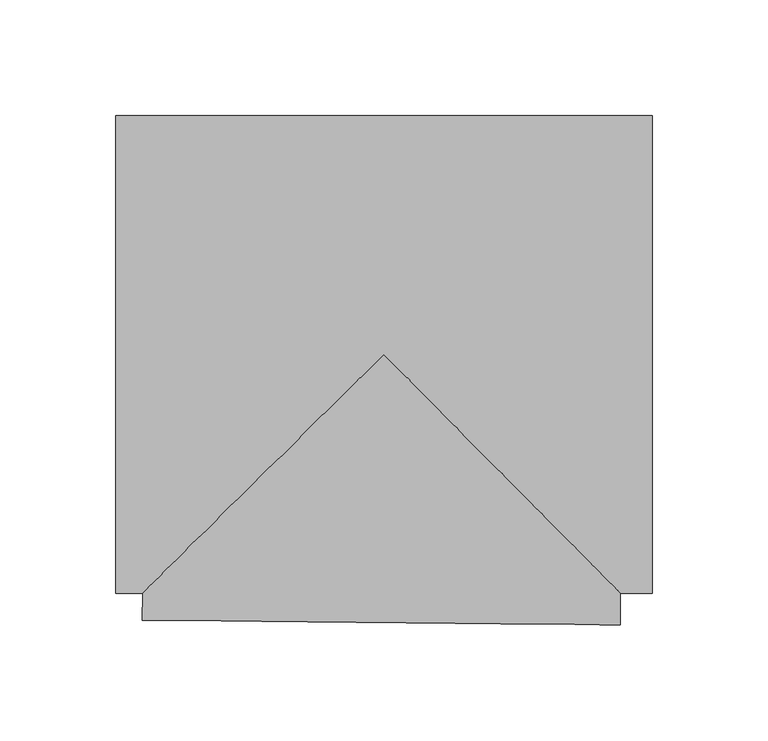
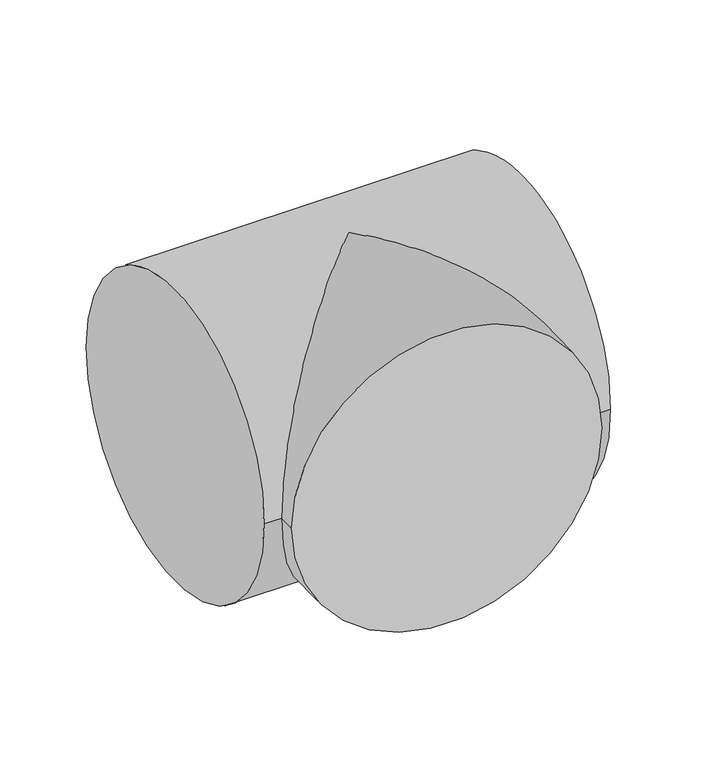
"""IFC4 building model written with IfcOpenShell, lengths in millimetres: pipe fitting geometry, M_Te - Genérica : Estándar."""

from ifc_helpers import new_model, si_unit, frame, origin, place, context, project, spatial, circle_curve, ellipse_curve, source, transform, mapped, element, save
from ifc_brep_helpers import plane_surface, cylinder_surface, advanced_brep


def pipe_fitting_a195f39d(model_context):
    return source(origin(), model_context, "Body", "AdvancedBrep", [
        advanced_brep(
        [(-115.8875, -103.1875, 0.0), (-115.8875, 103.1875, 0.0), (115.8875, -103.1875, 0.0), (115.8875, 103.1875, 0.0), (-104.2245342, -103.1875, 0.0), (0.0, 0.0, 103.1875), (102.1607843, -103.1875, 0.0), (0.0, 0.0, -103.1875), (-104.341158, -114.8498827, 0.0), (102.023524, -116.9135294, 0.0)],
        [
            (0, 1, circle_curve(frame((-115.8875, 0.0, 0.0), z_axis=(-1.0, 0.0, 0.0), x_axis=(0.0, 1.0, 0.0)), 103.1875)),
            (1, 0, circle_curve(frame((-115.8875, 0.0, 0.0), z_axis=(-1.0, 0.0, 0.0), x_axis=(0.0, 1.0, 0.0)), 103.1875)),
            (2, 3, circle_curve(frame((115.8875, 0.0, 0.0), z_axis=(1.0, 0.0, 0.0), x_axis=(0.0, 1.0, 0.0)), 103.1875)),
            (3, 2, circle_curve(frame((115.8875, 0.0, 0.0), z_axis=(1.0, 0.0, 0.0), x_axis=(0.0, 1.0, 0.0)), 103.1875)),
            (0, 4),
            (4, 5, ellipse_curve(frame((0.0, 0.0, 0.0), z_axis=(-0.7035625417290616, 0.7106333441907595, 0.0), x_axis=(-0.7106333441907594, -0.7035625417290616, 0.0)), 146.6642891, 103.1875)),
            (5, 6, ellipse_curve(frame((0.0, 0.0, 0.0), z_axis=(0.7106333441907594, 0.7035625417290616, 0.0), x_axis=(-0.7035625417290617, 0.7106333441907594, 0.0)), 145.2049793, 103.1875)),
            (6, 2),
            (3, 1),
            (6, 7, ellipse_curve(frame((0.0, 0.0, 0.0), z_axis=(0.7106333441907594, 0.7035625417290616, 0.0), x_axis=(-0.7035625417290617, 0.7106333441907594, 0.0)), 145.2049793, 103.1875)),
            (7, 4, ellipse_curve(frame((0.0, 0.0, 0.0), z_axis=(-0.7035625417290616, 0.7106333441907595, 0.0), x_axis=(-0.7106333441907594, -0.7035625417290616, 0.0)), 146.6642891, 103.1875)),
            (8, 9, circle_curve(frame((-1.158817, -115.8817061, 0.0), z_axis=(-0.009999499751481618, -0.9999500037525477, 0.0), x_axis=(0.9999500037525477, -0.009999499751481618, 0.0)), 103.1875)),
            (9, 8, circle_curve(frame((-1.158817, -115.8817061, 0.0), z_axis=(-0.009999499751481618, -0.9999500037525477, 0.0), x_axis=(0.9999500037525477, -0.009999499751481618, 0.0)), 103.1875)),
            (9, 6),
            (4, 8),
        ],
        [
            plane_surface(frame((-115.8875, 0.0, 0.0), z_axis=(-1.0, 0.0, 0.0), x_axis=(0.0, 0.0, 1.0))),
            plane_surface(frame((115.8875, 0.0, 0.0), z_axis=(1.0, 0.0, 0.0), x_axis=(0.0, 0.0, 1.0))),
            cylinder_surface(frame((-115.8875, 0.0, 0.0), z_axis=(-1.0, 0.0, 0.0), x_axis=(0.0, 1.0, 0.0)), 103.1875),
            plane_surface(frame((-1.158817, -115.8817061, 0.0), z_axis=(-0.009999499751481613, -0.9999500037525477, 0.0), x_axis=(0.0, 0.0, 1.0))),
            cylinder_surface(frame((0.0, 0.0, 0.0), z_axis=(0.009999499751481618, 0.9999500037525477, 0.0), x_axis=(0.9999500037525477, -0.009999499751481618, 0.0)), 103.1875),
        ],
        [
            (0, [[1, 2]]),
            (1, [[3, 4]]),
            (2, [[-1, 5, 6, 7, 8, -4, 9]]),
            (2, [[-2, -9, -3, -8, 10, 11, -5]]),
            (3, [[12, 13]]),
            (4, [[-13, 14, -7, -6, 15]]),
            (4, [[-12, -15, -11, -10, -14]]),
        ],
    ),
    ])


if __name__ == "__main__":
    model = new_model("IFC4")
    model_context = context("Model", 3, world=origin())
    ifc_project = project(units=[si_unit("LENGTHUNIT", "METRE", prefix="MILLI")], contexts=[model_context])
    site = spatial("IfcSite", under=ifc_project)
    building = spatial("IfcBuilding", under=site)
    placement = place(None, origin())
    pipe_fitting_shape = pipe_fitting_a195f39d(model_context)
    element("IfcPipeFitting", 1, ObjectType="M_Te - Genérica : Estándar", at=placement, inside=building, context=model_context, shape_type="MappedRepresentation", body=[
        mapped(pipe_fitting_shape, transform((0.0, 0.0, 0.0), x_axis=(1.0, 0.0, 0.0), y_axis=(0.0, 1.0, 0.0), z_axis=(0.0, 0.0, 1.0))),
    ])
    save(model, "model.ifc")
